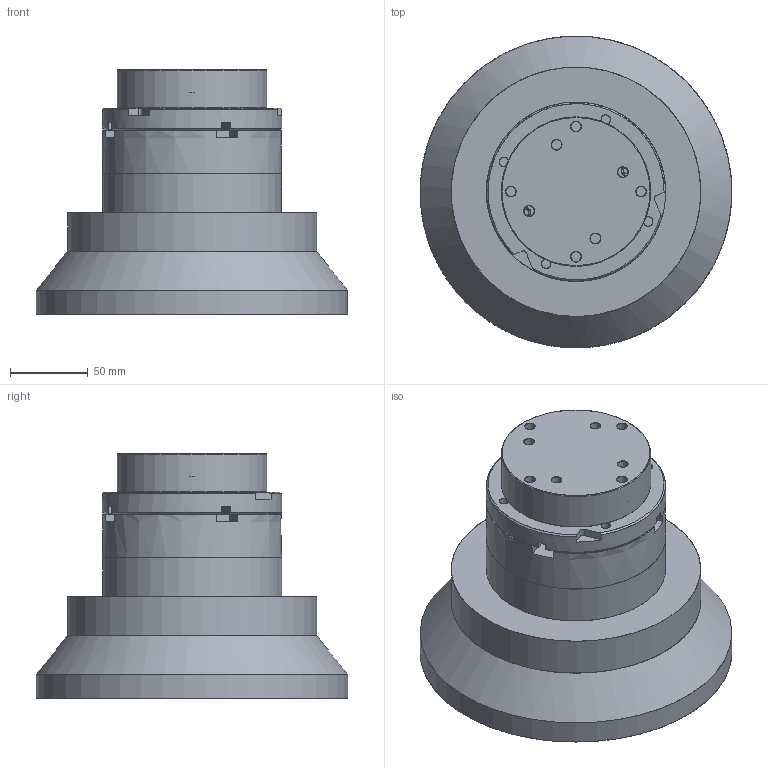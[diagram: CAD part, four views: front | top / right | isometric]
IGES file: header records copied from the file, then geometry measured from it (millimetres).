
Start section: Iges File created by ES
Global section: native system: ES; preprocessor: IGES.4B00; organization: JingDiao; units: millimetre
Bounding box: 200 x 200 x 156.5 mm (x, y, z)
Surface area: 243956.4 mm2 (no closed solid volume)
Topology: 0 solids, 0 shells, 238 faces, 15595 edges, 15466 vertices
Faces by surface type: revolution 141, bspline 97
